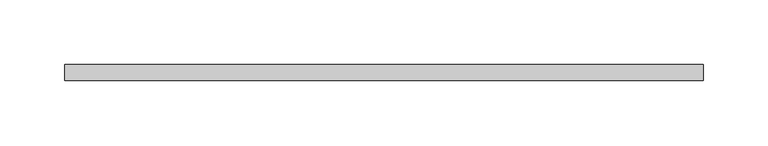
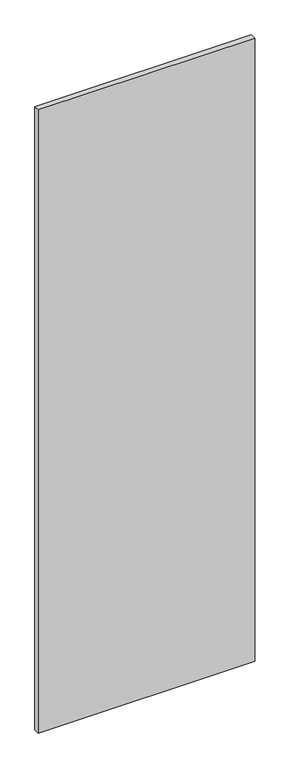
"""IFC4 building model written with IfcOpenShell, lengths in millimetres: proxy geometry, КНАУФ-Суперлист : КНАУФ-Суперлист."""

from ifc_helpers import new_model, si_unit, origin, origin_with_axes, place, context, project, spatial, polyline, outline, extrude, source, transform, mapped, element, save


def generic_models_b6768885(model_context):
    return source(origin(), model_context, "Body", "SweptSolid", [
        extrude(outline(polyline([(246.5, 0.0), (-246.5, 0.0), (-246.5, 12.5), (246.5, 12.5), (246.5, 0.0)])), origin_with_axes(), (0.0, 0.0, 1.0), 1500.0),
    ])


if __name__ == "__main__":
    model = new_model("IFC4")
    model_context = context("Model", 3, world=origin())
    ifc_project = project(units=[si_unit("LENGTHUNIT", "METRE", prefix="MILLI")], contexts=[model_context])
    site = spatial("IfcSite", under=ifc_project)
    building = spatial("IfcBuilding", under=site)
    placement = place(None, origin())
    generic_models_shape = generic_models_b6768885(model_context)
    element("IfcBuildingElementProxy", 1, Name="КНАУФ-Суперлист : КНАУФ-Суперлист", ObjectType="КНАУФ-Суперлист : КНАУФ-Суперлист", at=placement, inside=building, context=model_context, shape_type="MappedRepresentation", body=[
        mapped(generic_models_shape, transform((0.0, 0.0, 0.0), x_axis=(1.0, 0.0, 0.0), y_axis=(0.0, 1.0, 0.0), z_axis=(0.0, 0.0, 1.0))),
    ])
    save(model, "model.ifc")
